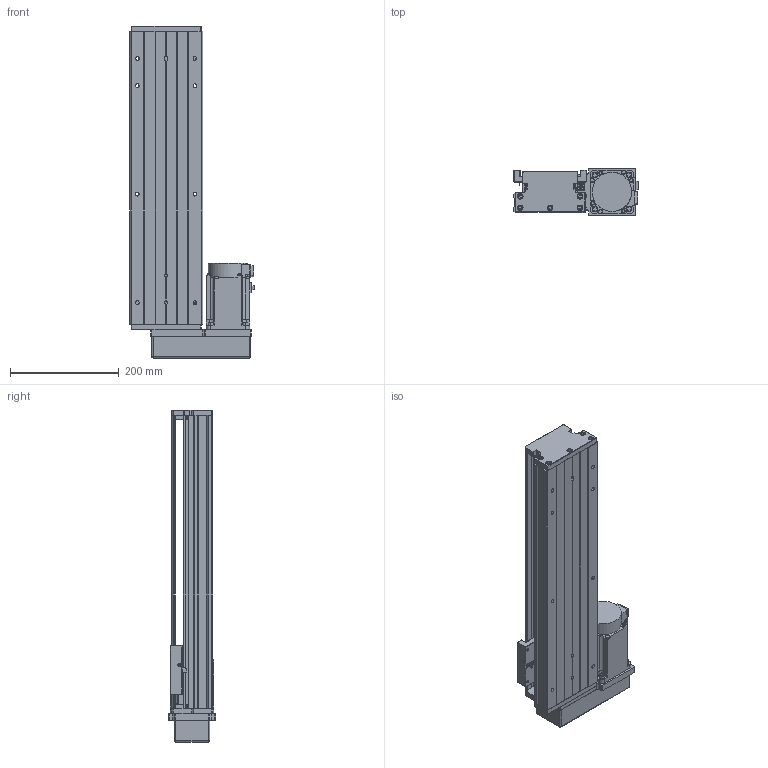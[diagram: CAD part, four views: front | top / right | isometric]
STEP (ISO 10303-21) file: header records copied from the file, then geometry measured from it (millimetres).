
FILE_DESCRIPTION (( 'STEP AP203' ), '1' );
FILE_NAME ('KTH130-400-BR-M75-C4.step', '2023-06-30T04:55:23', ( '微软用户' ), ( '微软中国' ), 'SwSTEP 2.0', 'SolidWorks 2020', '' );
FILE_SCHEMA (( 'CONFIG_CONTROL_DESIGN' ));
Length unit declared in the file: millimetre
Products named in the file (18): KTH130-002_KTH130-002; EE_SX911P_R; CTHA86-015-3_CTHA86-015-4; KTH130-004; CTHA60-016; CTHA86-035; KTH130-005; GBT 70.1-M3℅5; KTH130-400-BR-M75-C4; GB1155-6X6; GBT77-2000 M3×3; GBT70.1 M5℅16; す晦芛蹟隊 M3℅5; GBT 70.2-M3¡Á5_M3¡Á6; GBT 70.3-M3℅8; GTH14-001_400; CTHA60-017; hg-kn73j_-s100
Assembly tree (49 placements, depth 2):
  KTH130-400-BR-M75-C4
    GTH14-001_400
    KTH130-002_KTH130-002
    KTH130-004
    KTH130-005
    GB1155-6X6  x2
    GBT70.1 M5℅16  x10
    GBT 70.2-M3¡Á5_M3¡Á6  x4
    CTHA60-017  x3
    EE_SX911P_R  x3
    CTHA60-016  x2
    GBT 70.1-M3℅5  x6
    GBT77-2000 M3×3  x6
    す晦芛蹟隊 M3℅5  x2
    GBT 70.3-M3℅8  x4
    hg-kn73j_-s100
    CTHA86-015-3_CTHA86-015-4
    CTHA86-035
Bounding box: 230.3 x 87 x 612 mm (x, y, z)
Volume: 4440867.6 mm3; surface area: 643489.2 mm2
Topology: 52 solids, 52 shells, 2182 faces, 5292 edges, 3311 vertices
Faces by surface type: plane 1206, cylinder 622, cone 238, torus 100, sphere 16
Entity records: 39637 total; most frequent: CARTESIAN_POINT 6672, DIRECTION 6517, ORIENTED_EDGE 6088, EDGE_CURVE 3044, AXIS2_PLACEMENT_3D 2274, VECTOR 1969, LINE 1969, VERTEX_POINT 1945
